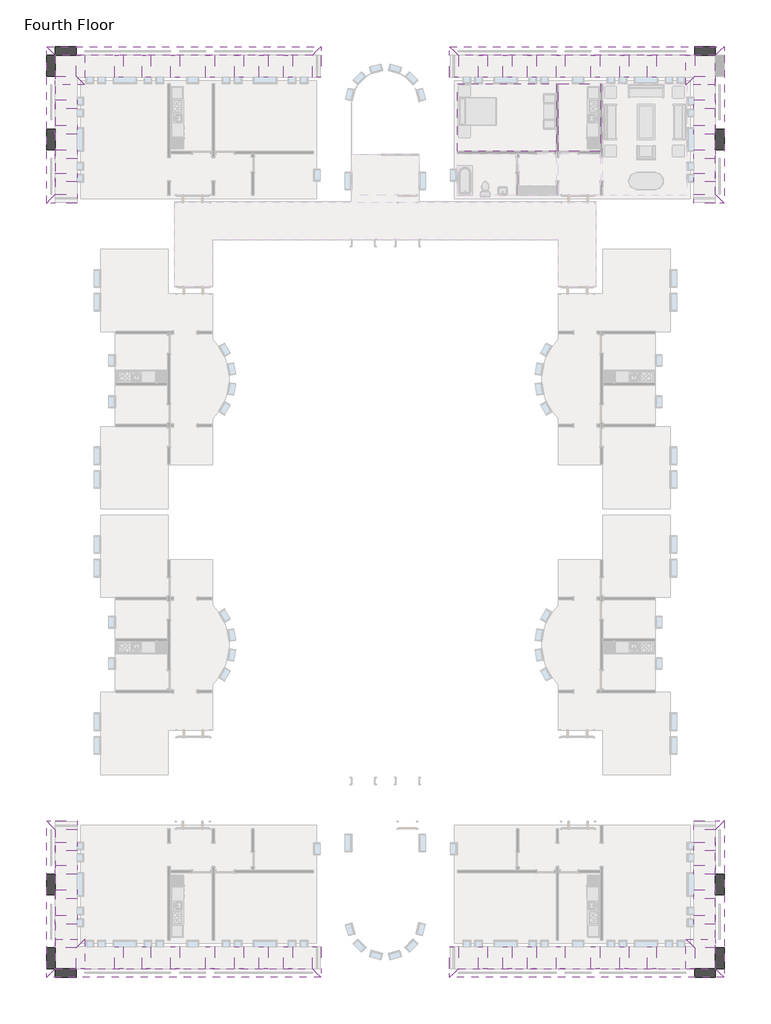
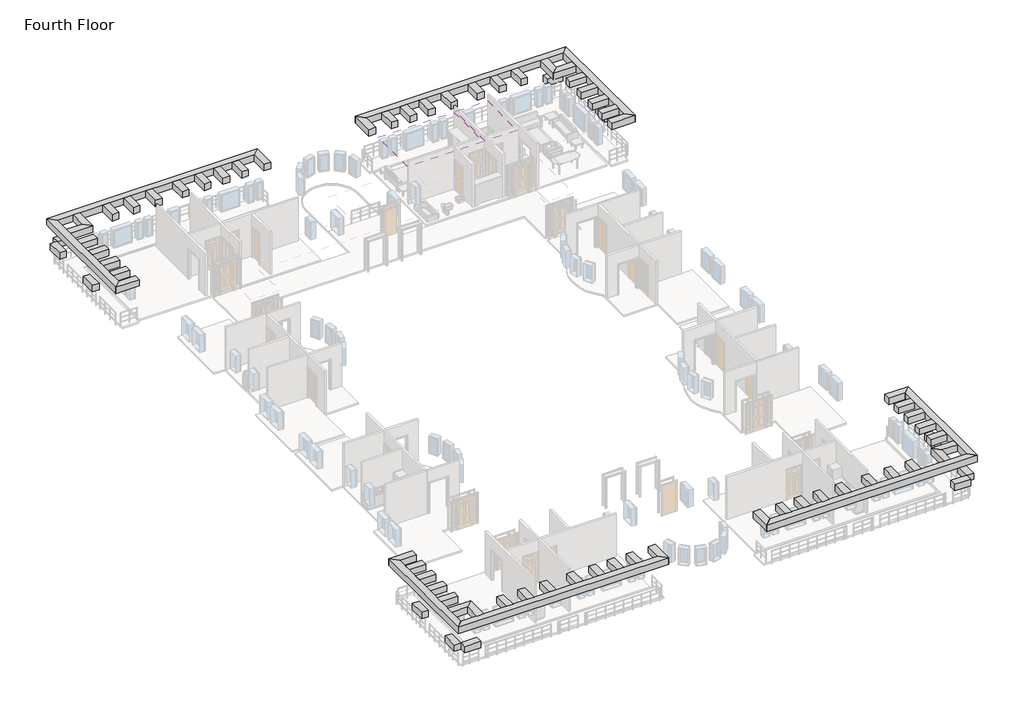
# One storey, part 4 of 5: 79 beams, 2 coverings.
"""IFC4 building model written with IfcOpenShell, lengths in millimetres."""

import ifcopenshell
import ifcopenshell.guid

model = None  # the IFC model being written
_history = None  # IfcOwnerHistory: only IFC2X3 demands one
_inside = {}  # id of a spatial element -> (the spatial element, [elements in it])
_under = {}  # id of a project, library or spatial element -> (it, [spatial elements below it])
_declared = {}  # id of a project -> (the project, [libraries it declares])
_typed = {}  # id of a type object -> (the type object, [elements of that type])
_made_of = {}  # id of a material, layer set ... -> (it, [elements and type objects made of it])


def new_model(schema):
    """Start an empty IFC model of exactly this schema.

    Asked for "IFC4X3", IfcOpenShell would pick the latest addendum, in which some entities
    have other attributes; the version numbers below select the first issue.
    IFC2X3 requires an IfcOwnerHistory on every rooted entity: one is made here for all.
    """
    global model, _history
    if schema == "IFC4X3":
        model = ifcopenshell.file(schema_version=(4, 3, 0, 0))
    else:
        model = ifcopenshell.file(schema=schema)
    _inside.clear()
    _under.clear()
    _declared.clear()
    _typed.clear()
    _made_of.clear()
    _history = None
    if model.schema == "IFC2X3":
        org = make("IfcOrganization", Name="unknown")
        user = make(
            "IfcPersonAndOrganization",
            ThePerson=make("IfcPerson", FamilyName="unknown"),
            TheOrganization=org,
        )
        app = make(
            "IfcApplication",
            ApplicationDeveloper=org,
            Version="unknown",
            ApplicationFullName="unknown",
            ApplicationIdentifier="unknown",
        )
        _history = make(
            "IfcOwnerHistory",
            OwningUser=user,
            OwningApplication=app,
            ChangeAction="ADDED",
            CreationDate=0,
        )
    return model


def make(cls, **values):
    """One entity of the class cls with the attributes given. An attribute that is None is left unset."""
    return model.create_entity(
        cls, **{name: value for name, value in values.items() if value is not None}
    )


def rooted(cls, **values):
    """An entity with a GlobalId (a new one), such as an element, a storey or a relation."""
    return make(cls, GlobalId=ifcopenshell.guid.new(), OwnerHistory=_history, **values)


def si_unit(unit_type, name, prefix=None):
    """IfcSIUnit, for example si_unit("LENGTHUNIT", "METRE", prefix="MILLI")."""
    return make("IfcSIUnit", UnitType=unit_type, Prefix=prefix, Name=name)


def assignment(units):
    """IfcUnitAssignment: the units of a project."""
    return None if units is None else make("IfcUnitAssignment", Units=units)


def point(xyz):
    """IfcCartesianPoint."""
    return None if xyz is None else make("IfcCartesianPoint", Coordinates=xyz)


def direction(xyz):
    """IfcDirection."""
    return None if xyz is None else make("IfcDirection", DirectionRatios=xyz)


def frame(location, z_axis=None, x_axis=None):
    """IfcAxis2Placement3D, a coordinate frame: its origin and axes. An axis left out is left unset."""
    return make(
        "IfcAxis2Placement3D",
        Location=point(location),
        Axis=direction(z_axis),
        RefDirection=direction(x_axis),
    )


def origin():
    """The frame at (0, 0, 0) with its axes left unset."""
    return frame((0.0, 0.0, 0.0))


def place(relative_to, where):
    """IfcLocalPlacement: puts the frame where relative to a parent placement (None: the world)."""
    return make(
        "IfcLocalPlacement", PlacementRelTo=relative_to, RelativePlacement=where
    )


def context(
    kind, dimensions, precision=None, world=None, true_north=None, identifier=None
):
    """IfcGeometricRepresentationContext, for example the 3D "Model" context."""
    return make(
        "IfcGeometricRepresentationContext",
        ContextIdentifier=identifier,
        ContextType=kind,
        CoordinateSpaceDimension=dimensions,
        Precision=precision,
        WorldCoordinateSystem=world,
        TrueNorth=true_north,
    )


def project(units=None, contexts=None):
    """IfcProject with its units and contexts."""
    return rooted(
        "IfcProject",
        Name="project",
        RepresentationContexts=contexts,
        UnitsInContext=assignment(units),
    )


def spatial(cls, under=None, at=None, **own):
    """A site, building, storey or space (cls), placed at a placement, below another one or the project."""
    s = rooted(cls, ObjectPlacement=at, **own)
    if under is not None:
        _under.setdefault(under.id(), (under, []))[1].append(s)
    return s


def polyline(points):
    """IfcPolyline through the points."""
    return make("IfcPolyline", Points=[point(p) for p in points])


def outline(outer, holes=None, kind="AREA"):
    """IfcArbitraryClosedProfileDef: a profile drawn as a closed curve; with holes, ...WithVoids."""
    if holes is None:
        return make("IfcArbitraryClosedProfileDef", ProfileType=kind, OuterCurve=outer)
    return make(
        "IfcArbitraryProfileDefWithVoids",
        ProfileType=kind,
        OuterCurve=outer,
        InnerCurves=holes,
    )


def extrude(swept, where, along, depth):
    """IfcExtrudedAreaSolid: the profile swept, set in the frame where, extruded along a direction by depth."""
    return make(
        "IfcExtrudedAreaSolid",
        SweptArea=swept,
        Position=where,
        ExtrudedDirection=direction(along),
        Depth=depth,
    )


def faces_of(points, faces, orient=None, outer=None):
    """IfcFace entities. A face is a list of loops; a loop is a list of indices into points, from 0.

    orient and outer hold one flag for each loop. By default every Orientation is true, the
    first loop of a face is its IfcFaceOuterBound and the others are IfcFaceBound.
    """
    made = []
    for i, loops in enumerate(faces):
        bounds = []
        for j, loop in enumerate(loops):
            is_outer = j == 0 if outer is None else outer[i][j]
            bounds.append(
                make(
                    "IfcFaceOuterBound" if is_outer else "IfcFaceBound",
                    Bound=make("IfcPolyLoop", Polygon=[points[k] for k in loop]),
                    Orientation=True if orient is None else orient[i][j],
                )
            )
        made.append(make("IfcFace", Bounds=bounds))
    return made


def faceted_brep(points, faces, orient=None, outer=None, voids=None):
    """IfcFacetedBrep: a solid bounded by flat faces; with voids (closed shells), ...WithVoids."""
    shared = [point(p) for p in points]
    hull = make("IfcClosedShell", CfsFaces=faces_of(shared, faces, orient, outer))
    if voids is None:
        return make("IfcFacetedBrep", Outer=hull)
    return make(
        "IfcFacetedBrepWithVoids",
        Outer=hull,
        Voids=[
            make(cls, CfsFaces=faces_of(shared, fs, o, b)) for cls, fs, o, b in voids
        ],
    )


def shape(context_of_items, identifier, shape_type, items):
    """IfcShapeRepresentation: the items that make up one representation, for example the "Body"."""
    return make(
        "IfcShapeRepresentation",
        ContextOfItems=context_of_items,
        RepresentationIdentifier=identifier,
        RepresentationType=shape_type,
        Items=items,
    )


def source(mapping_origin, context_of_items, identifier, shape_type, items):
    """IfcRepresentationMap: a shape defined once, which mapped items show again and again."""
    return make(
        "IfcRepresentationMap",
        MappingOrigin=mapping_origin,
        MappedRepresentation=shape(context_of_items, identifier, shape_type, items),
    )


def transform(
    local_origin,
    x_axis=None,
    y_axis=None,
    z_axis=None,
    scale=None,
    scale2=None,
    scale3=None,
    uniform=True,
):
    """IfcCartesianTransformationOperator3D, or its non-uniform kind. x_axis, y_axis, z_axis: its Axis1, 2, 3."""
    if uniform:
        return make(
            "IfcCartesianTransformationOperator3D",
            Axis1=direction(x_axis),
            Axis2=direction(y_axis),
            LocalOrigin=point(local_origin),
            Scale=scale,
            Axis3=direction(z_axis),
        )
    return make(
        "IfcCartesianTransformationOperator3DnonUniform",
        Axis1=direction(x_axis),
        Axis2=direction(y_axis),
        LocalOrigin=point(local_origin),
        Scale=scale,
        Axis3=direction(z_axis),
        Scale2=scale2,
        Scale3=scale3,
    )


def mapped(mapping_source, mapping_target):
    """IfcMappedItem: shows the shape of a source again, moved by a transform."""
    return make(
        "IfcMappedItem", MappingSource=mapping_source, MappingTarget=mapping_target
    )


def made_of(thing, what):
    """Note that an element or type object is made of a material, layer set ...; save() writes the relation."""
    if what is not None:
        _made_of.setdefault(what.id(), (what, []))[1].append(thing)
    return thing


def element(
    cls,
    number,
    at=None,
    inside=None,
    cuts=None,
    type_object=None,
    material=None,
    context=None,
    identifier="Body",
    shape_type=None,
    held_by="IfcProductDefinitionShape",
    body=None,
    shapes=None,
    **own,
):
    """One element of the class cls, such as IfcWall. Its Tag is "e" and its number.

    at: its placement. inside: the storey or other place that contains it. cuts: it is an
    opening in that element (IfcRelVoidsElement). A single representation is given by context,
    identifier, shape_type and body (its items); several are given by shapes. held_by: the class
    of the entity that holds the representations. save() writes the other relations.
    """
    e = rooted(cls, Tag="e%d" % number, ObjectPlacement=at, **own)
    if body is not None:
        shapes = [shape(context, identifier, shape_type, body)]
    if shapes is not None:
        e.Representation = make(held_by, Representations=shapes)
    if inside is not None:
        _inside.setdefault(inside.id(), (inside, []))[1].append(e)
    if cuts is not None:
        rooted(
            "IfcRelVoidsElement", RelatingBuildingElement=cuts, RelatedOpeningElement=e
        )
    if type_object is not None:
        _typed.setdefault(type_object.id(), (type_object, []))[1].append(e)
    return made_of(e, material)


def aggregate(whole, parts):
    """IfcRelAggregates: a whole, such as a stair, and the parts it consists of."""
    return rooted("IfcRelAggregates", RelatingObject=whole, RelatedObjects=parts)


def save(model, path):
    """Write the relations noted so far, then the file.

    IfcRelAggregates (storeys below a building ...), IfcRelContainedInSpatialStructure (elements
    in a storey), IfcRelDefinesByType, IfcRelAssociatesMaterial and IfcRelDeclares: one each for
    every whole, place, type object, material and project.
    """
    for whole, parts in _under.values():
        aggregate(whole, parts)
    for where, things in _inside.values():
        rooted(
            "IfcRelContainedInSpatialStructure",
            RelatedElements=things,
            RelatingStructure=where,
        )
    for kind, things in _typed.values():
        rooted("IfcRelDefinesByType", RelatedObjects=things, RelatingType=kind)
    for what, things in _made_of.values():
        rooted("IfcRelAssociatesMaterial", RelatedObjects=things, RelatingMaterial=what)
    for by, libraries in _declared.values():
        rooted("IfcRelDeclares", RelatingContext=by, RelatedDefinitions=libraries)
    model.write(path)


def concrete_rectangular_beam_18_x_18_d2ae2ec1(model_context):
    return source(origin(), model_context, "Body", "SweptSolid", [
        extrude(outline(polyline([(558.8, 228.6), (558.8, -228.6), (-558.8, -228.6), (-558.8, 228.6), (558.8, 228.6)])), frame((0.0, 0.0, -228.6), z_axis=(0.0, 0.0, 1.0), x_axis=(1.0, 0.0, 0.0)), (0.0, 0.0, 1.0), 457.2),
    ])


def concrete_rectangular_beam_18_x_18_4ba7165a(model_context):
    return source(origin(), model_context, "Body", "SweptSolid", [
        extrude(outline(polyline([(533.4, 228.6), (533.4, -228.6), (-533.4, -228.6), (-533.4, 228.6), (533.4, 228.6)])), frame((0.0, 0.0, -228.6), z_axis=(0.0, 0.0, 1.0), x_axis=(1.0, 0.0, 0.0)), (0.0, 0.0, 1.0), 457.2),
    ])


def concrete_rectangular_beam_18_x_18_bb97956a(model_context):
    return source(origin(), model_context, "Body", "SweptSolid", [
        extrude(outline(polyline([(558.8, -228.6), (-558.8, -228.6), (-558.8, 228.6), (558.8, 228.6), (558.8, -228.6)])), frame((0.0, 0.0, -228.6), z_axis=(0.0, 0.0, 1.0), x_axis=(1.0, 0.0, 0.0)), (0.0, 0.0, 1.0), 457.2),
    ])


def concrete_rectangular_beam_18_x_18_c7730e0d(model_context):
    return source(origin(), model_context, "Body", "SweptSolid", [
        extrude(outline(polyline([(533.4, -228.6), (-533.4, -228.6), (-533.4, 228.6), (533.4, 228.6), (533.4, -228.6)])), frame((0.0, 0.0, -228.6), z_axis=(0.0, 0.0, 1.0), x_axis=(1.0, 0.0, 0.0)), (0.0, 0.0, 1.0), 457.2),
    ])


model = new_model("IFC4")

# Units and contexts
model_context = context("Model", 3, world=origin())
ifc_project = project(units=[si_unit("LENGTHUNIT", "METRE", prefix="MILLI")], contexts=[model_context])

# Site, building, storey
site = spatial("IfcSite", under=ifc_project)
building = spatial("IfcBuilding", under=site)
storey = spatial("IfcBuildingStorey", under=building, Name="Fourth Floor", Elevation=9144.0)

# Beams
placement = place(None, origin())
element("IfcBeam", 1, ObjectType="Concrete-Rectangular Beam : 18 x 18", at=placement, inside=storey, context=model_context, shape_type="SweptSolid", body=[
    extrude(outline(polyline([(2551.1410437, 12198.8316867), (2093.9410437, 11741.6316867), (-11164.8589563, 11741.6316867), (-11622.0589563, 12198.8316867), (2551.1410437, 12198.8316867)])), frame((0.0, 0.0, 11734.8), z_axis=(0.0, 0.0, 1.0), x_axis=(1.0, 0.0, 0.0)), (0.0, 0.0, 1.0), 457.2),
])
element("IfcBeam", 2, ObjectType="Concrete-Rectangular Beam : 18 x 18", at=placement, inside=storey, context=model_context, shape_type="Brep", body=[
    faceted_brep([(2093.9410437, 4578.8316867, 12192.0), (2551.1410437, 4121.6316867, 12192.0), (2551.1410437, 12198.8316867, 12192.0), (2093.9410437, 11741.6316867, 12192.0), (2093.9410437, 4578.8316867, 11734.8), (2093.9410437, 11741.6316867, 11734.8), (2551.1410437, 4121.6316867, 11734.8), (2551.1410437, 12198.8316867, 11734.8), (2551.1410437, 11741.6316867, 11734.8)], [[[0, 1, 2, 3]], [[4, 0, 3, 5]], [[6, 4, 5, 7, 8]], [[1, 6, 8, 7, 2]], [[1, 0, 4, 6]], [[2, 7, 5, 3]]]),
])
element("IfcBeam", 3, ObjectType="Concrete-Rectangular Beam : 18 x 18", at=placement, inside=storey, context=model_context, shape_type="Brep", body=[
    faceted_brep([(-11164.8589563, 10624.0316867, 12192.0), (-11622.0589563, 10624.0316867, 12192.0), (-11622.0589563, 10624.0316867, 11734.8), (-11164.8589563, 10624.0316867, 11734.8), (-11164.8589563, 11741.6316867, 12192.0), (-11622.0589563, 12198.8316867, 12192.0), (-11622.0589563, 12198.8316867, 11734.8), (-11622.0589563, 11741.6316867, 11734.8), (-11164.8589563, 11741.6316867, 11734.8)], [[[0, 1, 2, 3]], [[1, 0, 4, 5]], [[2, 1, 5, 6, 7]], [[3, 2, 7, 6, 8]], [[0, 3, 8, 4]], [[4, 8, 6, 5]]]),
])
element("IfcBeam", 4, ObjectType="Concrete-Rectangular Beam : 18 x 18", at=placement, inside=storey, context=model_context, shape_type="SweptSolid", body=[
    extrude(outline(polyline([(1027.1410437, 10674.8316867), (569.9410437, 10217.6316867), (569.9410437, 11741.6316867), (1027.1410437, 11741.6316867), (1027.1410437, 10674.8316867)])), frame((0.0, 0.0, 11734.8), z_axis=(0.0, 0.0, 1.0), x_axis=(1.0, 0.0, 0.0)), (0.0, 0.0, 1.0), 457.2),
])
element("IfcBeam", 5, ObjectType="Concrete-Rectangular Beam : 18 x 18", at=placement, inside=storey, context=model_context, shape_type="SweptSolid", body=[
    extrude(outline(polyline([(569.9410437, 10217.6316867), (1027.1410437, 10674.8316867), (2093.9410437, 10674.8316867), (2093.9410437, 10217.6316867), (569.9410437, 10217.6316867)])), frame((0.0, 0.0, 11734.8), z_axis=(0.0, 0.0, 1.0), x_axis=(1.0, 0.0, 0.0)), (0.0, 0.0, 1.0), 457.2),
])
element("IfcBeam", 6, ObjectType="Concrete-Rectangular Beam : 18 x 18", at=placement, inside=storey, context=model_context, shape_type="Brep", body=[
    faceted_brep([(976.3410437, 4121.6316867, 12192.0), (976.3410437, 4578.8316867, 12192.0), (976.3410437, 4578.8316867, 11734.8), (976.3410437, 4121.6316867, 11734.8), (2551.1410437, 4121.6316867, 12192.0), (2093.9410437, 4578.8316867, 12192.0), (2093.9410437, 4578.8316867, 11734.8), (2551.1410437, 4121.6316867, 11734.8), (2093.9410437, 4121.6316867, 11734.8)], [[[0, 1, 2, 3]], [[1, 0, 4, 5]], [[2, 1, 5, 6]], [[3, 2, 6, 7, 8]], [[0, 3, 8, 7, 4]], [[4, 7, 6, 5]]]),
])
element("IfcBeam", 7, ObjectType="Concrete-Rectangular Beam : 18 x 18", at=placement, inside=storey, context=model_context, shape_type="Brep", body=[
    faceted_brep([(1027.1410437, 11741.6316867, 10668.0), (1027.1410437, 12198.8316867, 10668.0), (1027.1410437, 12198.8316867, 10210.8), (1027.1410437, 11741.6316867, 10210.8), (2093.9410437, 11741.6316867, 10668.0), (2093.9410437, 11741.6316867, 10210.8), (2093.9410437, 11754.3316867, 10210.8), (2093.9410437, 12198.8316867, 10210.8), (2093.9410437, 12198.8316867, 10668.0), (2093.9410437, 11754.3316867, 10668.0)], [[[0, 1, 2, 3]], [[4, 5, 6, 7, 8, 9]], [[1, 0, 4, 9, 8]], [[2, 1, 8, 7]], [[3, 2, 7, 6, 5]], [[0, 3, 5, 4]]]),
])
element("IfcBeam", 8, ObjectType="Concrete-Rectangular Beam : 18 x 18", at=placement, inside=storey, context=model_context, shape_type="SweptSolid", body=[
    extrude(outline(polyline([(-32421.4839563, 12198.8316867), (-18248.2839563, 12198.8316867), (-18705.4839563, 11741.6316867), (-31964.2839563, 11741.6316867), (-32421.4839563, 12198.8316867)])), frame((0.0, 0.0, 11734.8), z_axis=(0.0, 0.0, 1.0), x_axis=(1.0, 0.0, 0.0)), (0.0, 0.0, 1.0), 457.2),
])
element("IfcBeam", 9, ObjectType="Concrete-Rectangular Beam : 18 x 18", at=placement, inside=storey, context=model_context, shape_type="Brep", body=[
    faceted_brep([(-31964.2839563, 4578.8316867, 12192.0), (-31964.2839563, 11741.6316867, 12192.0), (-32421.4839563, 12198.8316867, 12192.0), (-32421.4839563, 4121.6316867, 12192.0), (-31964.2839563, 4578.8316867, 11734.8), (-31964.2839563, 11741.6316867, 11734.8), (-32421.4839563, 4121.6316867, 11734.8), (-32421.4839563, 11741.6316867, 11734.8), (-32421.4839563, 12198.8316867, 11734.8)], [[[0, 1, 2, 3]], [[4, 5, 1, 0]], [[6, 7, 8, 5, 4]], [[3, 2, 8, 7, 6]], [[3, 6, 4, 0]], [[2, 1, 5, 8]]]),
])
element("IfcBeam", 10, ObjectType="Concrete-Rectangular Beam : 18 x 18", at=placement, inside=storey, context=model_context, shape_type="Brep", body=[
    faceted_brep([(-18705.4839563, 10624.0316867, 12192.0), (-18705.4839563, 10624.0316867, 11734.8), (-18248.2839563, 10624.0316867, 11734.8), (-18248.2839563, 10624.0316867, 12192.0), (-18248.2839563, 12198.8316867, 12192.0), (-18705.4839563, 11741.6316867, 12192.0), (-18248.2839563, 11741.6316867, 11734.8), (-18248.2839563, 12198.8316867, 11734.8), (-18705.4839563, 11741.6316867, 11734.8)], [[[0, 1, 2, 3]], [[3, 4, 5, 0]], [[2, 6, 7, 4, 3]], [[1, 8, 7, 6, 2]], [[0, 5, 8, 1]], [[5, 4, 7, 8]]]),
])
element("IfcBeam", 11, ObjectType="Concrete-Rectangular Beam : 18 x 18", at=placement, inside=storey, context=model_context, shape_type="SweptSolid", body=[
    extrude(outline(polyline([(-30897.4839563, 10674.8316867), (-30897.4839563, 11741.6316867), (-30440.2839563, 11741.6316867), (-30440.2839563, 10217.6316867), (-30897.4839563, 10674.8316867)])), frame((0.0, 0.0, 11734.8), z_axis=(0.0, 0.0, 1.0), x_axis=(1.0, 0.0, 0.0)), (0.0, 0.0, 1.0), 457.2),
])
element("IfcBeam", 12, ObjectType="Concrete-Rectangular Beam : 18 x 18", at=placement, inside=storey, context=model_context, shape_type="SweptSolid", body=[
    extrude(outline(polyline([(-30440.2839563, 10217.6316867), (-31964.2839563, 10217.6316867), (-31964.2839563, 10674.8316867), (-30897.4839563, 10674.8316867), (-30440.2839563, 10217.6316867)])), frame((0.0, 0.0, 11734.8), z_axis=(0.0, 0.0, 1.0), x_axis=(1.0, 0.0, 0.0)), (0.0, 0.0, 1.0), 457.2),
])
element("IfcBeam", 13, ObjectType="Concrete-Rectangular Beam : 18 x 18", at=placement, inside=storey, context=model_context, shape_type="Brep", body=[
    faceted_brep([(-30846.6839563, 4121.6316867, 12192.0), (-30846.6839563, 4121.6316867, 11734.8), (-30846.6839563, 4578.8316867, 11734.8), (-30846.6839563, 4578.8316867, 12192.0), (-31964.2839563, 4578.8316867, 12192.0), (-32421.4839563, 4121.6316867, 12192.0), (-31964.2839563, 4578.8316867, 11734.8), (-31964.2839563, 4121.6316867, 11734.8), (-32421.4839563, 4121.6316867, 11734.8)], [[[0, 1, 2, 3]], [[3, 4, 5, 0]], [[2, 6, 4, 3]], [[1, 7, 8, 6, 2]], [[0, 5, 8, 7, 1]], [[5, 4, 6, 8]]]),
])
element("IfcBeam", 14, ObjectType="Concrete-Rectangular Beam : 18 x 18", at=placement, inside=storey, context=model_context, shape_type="Brep", body=[
    faceted_brep([(-30897.4839563, 11741.6316867, 10668.0), (-30897.4839563, 11741.6316867, 10210.8), (-30897.4839563, 12198.8316867, 10210.8), (-30897.4839563, 12198.8316867, 10668.0), (-31964.2839563, 11741.6316867, 10668.0), (-31964.2839563, 11754.3316867, 10668.0), (-31964.2839563, 12198.8316867, 10668.0), (-31964.2839563, 12198.8316867, 10210.8), (-31964.2839563, 11754.3316867, 10210.8), (-31964.2839563, 11741.6316867, 10210.8)], [[[0, 1, 2, 3]], [[4, 5, 6, 7, 8, 9]], [[3, 6, 5, 4, 0]], [[2, 7, 6, 3]], [[1, 9, 8, 7, 2]], [[0, 4, 9, 1]]]),
])
element("IfcBeam", 15, ObjectType="Concrete-Rectangular Beam : 18 x 18", at=placement, inside=storey, context=model_context, shape_type="Brep", body=[
    faceted_brep([(-32421.4839563, 10674.8316867, 10668.0), (-32421.4839563, 10674.8316867, 10210.8), (-31964.2839563, 10674.8316867, 10210.8), (-31964.2839563, 10674.8316867, 10668.0), (-32421.4839563, 11754.3316867, 10668.0), (-31964.2839563, 11754.3316867, 10668.0), (-31964.2839563, 11754.3316867, 10210.8), (-32421.4839563, 11754.3316867, 10210.8), (-31964.2839563, 11741.6316867, 10668.0), (-31964.2839563, 11741.6316867, 10210.8)], [[[0, 1, 2, 3]], [[4, 5, 6, 7]], [[3, 8, 5, 4, 0]], [[2, 9, 6, 5, 8, 3]], [[1, 7, 6, 9, 2]], [[0, 4, 7, 1]]]),
])
element("IfcBeam", 16, ObjectType="Concrete-Rectangular Beam : 18 x 18", at=placement, inside=storey, context=model_context, shape_type="SweptSolid", body=[
    extrude(outline(polyline([(2551.1410437, -35807.1683133), (-11622.0589563, -35807.1683133), (-11164.8589563, -35349.9683133), (2093.9410437, -35349.9683133), (2551.1410437, -35807.1683133)])), frame((0.0, 0.0, 11734.8), z_axis=(0.0, 0.0, 1.0), x_axis=(1.0, 0.0, 0.0)), (0.0, 0.0, 1.0), 457.2),
])
element("IfcBeam", 17, ObjectType="Concrete-Rectangular Beam : 18 x 18", at=placement, inside=storey, context=model_context, shape_type="Brep", body=[
    faceted_brep([(2093.9410437, -28187.1683133, 12192.0), (2093.9410437, -35349.9683133, 12192.0), (2551.1410437, -35807.1683133, 12192.0), (2551.1410437, -27729.9683133, 12192.0), (2093.9410437, -28187.1683133, 11734.8), (2093.9410437, -35349.9683133, 11734.8), (2551.1410437, -27729.9683133, 11734.8), (2551.1410437, -35349.9683133, 11734.8), (2551.1410437, -35807.1683133, 11734.8)], [[[0, 1, 2, 3]], [[4, 5, 1, 0]], [[6, 7, 8, 5, 4]], [[3, 2, 8, 7, 6]], [[3, 6, 4, 0]], [[2, 1, 5, 8]]]),
])
element("IfcBeam", 18, ObjectType="Concrete-Rectangular Beam : 18 x 18", at=placement, inside=storey, context=model_context, shape_type="Brep", body=[
    faceted_brep([(-11164.8589563, -34232.3683133, 12192.0), (-11164.8589563, -34232.3683133, 11734.8), (-11622.0589563, -34232.3683133, 11734.8), (-11622.0589563, -34232.3683133, 12192.0), (-11622.0589563, -35807.1683133, 12192.0), (-11164.8589563, -35349.9683133, 12192.0), (-11622.0589563, -35349.9683133, 11734.8), (-11622.0589563, -35807.1683133, 11734.8), (-11164.8589563, -35349.9683133, 11734.8)], [[[0, 1, 2, 3]], [[3, 4, 5, 0]], [[2, 6, 7, 4, 3]], [[1, 8, 7, 6, 2]], [[0, 5, 8, 1]], [[5, 4, 7, 8]]]),
])
element("IfcBeam", 19, ObjectType="Concrete-Rectangular Beam : 18 x 18", at=placement, inside=storey, context=model_context, shape_type="SweptSolid", body=[
    extrude(outline(polyline([(1027.1410437, -34283.1683133), (1027.1410437, -35349.9683133), (569.9410437, -35349.9683133), (569.9410437, -33825.9683133), (1027.1410437, -34283.1683133)])), frame((0.0, 0.0, 11734.8), z_axis=(0.0, 0.0, 1.0), x_axis=(1.0, 0.0, 0.0)), (0.0, 0.0, 1.0), 457.2),
])
element("IfcBeam", 20, ObjectType="Concrete-Rectangular Beam : 18 x 18", at=placement, inside=storey, context=model_context, shape_type="SweptSolid", body=[
    extrude(outline(polyline([(569.9410437, -33825.9683133), (2093.9410437, -33825.9683133), (2093.9410437, -34283.1683133), (1027.1410437, -34283.1683133), (569.9410437, -33825.9683133)])), frame((0.0, 0.0, 11734.8), z_axis=(0.0, 0.0, 1.0), x_axis=(1.0, 0.0, 0.0)), (0.0, 0.0, 1.0), 457.2),
])
element("IfcBeam", 21, ObjectType="Concrete-Rectangular Beam : 18 x 18", at=placement, inside=storey, context=model_context, shape_type="Brep", body=[
    faceted_brep([(976.3410437, -27729.9683133, 12192.0), (976.3410437, -27729.9683133, 11734.8), (976.3410437, -28187.1683133, 11734.8), (976.3410437, -28187.1683133, 12192.0), (2093.9410437, -28187.1683133, 12192.0), (2551.1410437, -27729.9683133, 12192.0), (2093.9410437, -28187.1683133, 11734.8), (2093.9410437, -27729.9683133, 11734.8), (2551.1410437, -27729.9683133, 11734.8)], [[[0, 1, 2, 3]], [[3, 4, 5, 0]], [[2, 6, 4, 3]], [[1, 7, 8, 6, 2]], [[0, 5, 8, 7, 1]], [[5, 4, 6, 8]]]),
])
element("IfcBeam", 22, ObjectType="Concrete-Rectangular Beam : 18 x 18", at=placement, inside=storey, context=model_context, shape_type="Brep", body=[
    faceted_brep([(1027.1410437, -35349.9683133, 10668.0), (1027.1410437, -35349.9683133, 10210.8), (1027.1410437, -35807.1683133, 10210.8), (1027.1410437, -35807.1683133, 10668.0), (2093.9410437, -35349.9683133, 10668.0), (2093.9410437, -35362.6683133, 10668.0), (2093.9410437, -35807.1683133, 10668.0), (2093.9410437, -35807.1683133, 10210.8), (2093.9410437, -35362.6683133, 10210.8), (2093.9410437, -35349.9683133, 10210.8)], [[[0, 1, 2, 3]], [[4, 5, 6, 7, 8, 9]], [[3, 6, 5, 4, 0]], [[2, 7, 6, 3]], [[1, 9, 8, 7, 2]], [[0, 4, 9, 1]]]),
])
element("IfcBeam", 23, ObjectType="Concrete-Rectangular Beam : 18 x 18", at=placement, inside=storey, context=model_context, shape_type="Brep", body=[
    faceted_brep([(2551.1410437, -34283.1683133, 10668.0), (2551.1410437, -34283.1683133, 10210.8), (2093.9410437, -34283.1683133, 10210.8), (2093.9410437, -34283.1683133, 10668.0), (2551.1410437, -35362.6683133, 10668.0), (2093.9410437, -35362.6683133, 10668.0), (2093.9410437, -35362.6683133, 10210.8), (2551.1410437, -35362.6683133, 10210.8), (2093.9410437, -35349.9683133, 10668.0), (2093.9410437, -35349.9683133, 10210.8)], [[[0, 1, 2, 3]], [[4, 5, 6, 7]], [[3, 8, 5, 4, 0]], [[2, 9, 6, 5, 8, 3]], [[1, 7, 6, 9, 2]], [[0, 4, 7, 1]]]),
])
element("IfcBeam", 24, ObjectType="Concrete-Rectangular Beam : 18 x 18", at=placement, inside=storey, context=model_context, shape_type="SweptSolid", body=[
    extrude(outline(polyline([(-32421.4839563, -35807.1683133), (-31964.2839563, -35349.9683133), (-18705.4839563, -35349.9683133), (-18248.2839563, -35807.1683133), (-32421.4839563, -35807.1683133)])), frame((0.0, 0.0, 11734.8), z_axis=(0.0, 0.0, 1.0), x_axis=(1.0, 0.0, 0.0)), (0.0, 0.0, 1.0), 457.2),
])
element("IfcBeam", 25, ObjectType="Concrete-Rectangular Beam : 18 x 18", at=placement, inside=storey, context=model_context, shape_type="Brep", body=[
    faceted_brep([(-31964.2839563, -28187.1683133, 12192.0), (-32421.4839563, -27729.9683133, 12192.0), (-32421.4839563, -35807.1683133, 12192.0), (-31964.2839563, -35349.9683133, 12192.0), (-31964.2839563, -28187.1683133, 11734.8), (-31964.2839563, -35349.9683133, 11734.8), (-32421.4839563, -27729.9683133, 11734.8), (-32421.4839563, -35807.1683133, 11734.8), (-32421.4839563, -35349.9683133, 11734.8)], [[[0, 1, 2, 3]], [[4, 0, 3, 5]], [[6, 4, 5, 7, 8]], [[1, 6, 8, 7, 2]], [[1, 0, 4, 6]], [[2, 7, 5, 3]]]),
])
element("IfcBeam", 26, ObjectType="Concrete-Rectangular Beam : 18 x 18", at=placement, inside=storey, context=model_context, shape_type="Brep", body=[
    faceted_brep([(-18705.4839563, -34232.3683133, 12192.0), (-18248.2839563, -34232.3683133, 12192.0), (-18248.2839563, -34232.3683133, 11734.8), (-18705.4839563, -34232.3683133, 11734.8), (-18705.4839563, -35349.9683133, 12192.0), (-18248.2839563, -35807.1683133, 12192.0), (-18248.2839563, -35807.1683133, 11734.8), (-18248.2839563, -35349.9683133, 11734.8), (-18705.4839563, -35349.9683133, 11734.8)], [[[0, 1, 2, 3]], [[1, 0, 4, 5]], [[2, 1, 5, 6, 7]], [[3, 2, 7, 6, 8]], [[0, 3, 8, 4]], [[4, 8, 6, 5]]]),
])
element("IfcBeam", 27, ObjectType="Concrete-Rectangular Beam : 18 x 18", at=placement, inside=storey, context=model_context, shape_type="SweptSolid", body=[
    extrude(outline(polyline([(-30897.4839563, -34283.1683133), (-30440.2839563, -33825.9683133), (-30440.2839563, -35349.9683133), (-30897.4839563, -35349.9683133), (-30897.4839563, -34283.1683133)])), frame((0.0, 0.0, 11734.8), z_axis=(0.0, 0.0, 1.0), x_axis=(1.0, 0.0, 0.0)), (0.0, 0.0, 1.0), 457.2),
])
element("IfcBeam", 28, ObjectType="Concrete-Rectangular Beam : 18 x 18", at=placement, inside=storey, context=model_context, shape_type="SweptSolid", body=[
    extrude(outline(polyline([(-30440.2839563, -33825.9683133), (-30897.4839563, -34283.1683133), (-31964.2839563, -34283.1683133), (-31964.2839563, -33825.9683133), (-30440.2839563, -33825.9683133)])), frame((0.0, 0.0, 11734.8), z_axis=(0.0, 0.0, 1.0), x_axis=(1.0, 0.0, 0.0)), (0.0, 0.0, 1.0), 457.2),
])
element("IfcBeam", 29, ObjectType="Concrete-Rectangular Beam : 18 x 18", at=placement, inside=storey, context=model_context, shape_type="Brep", body=[
    faceted_brep([(-30846.6839563, -27729.9683133, 12192.0), (-30846.6839563, -28187.1683133, 12192.0), (-30846.6839563, -28187.1683133, 11734.8), (-30846.6839563, -27729.9683133, 11734.8), (-32421.4839563, -27729.9683133, 12192.0), (-31964.2839563, -28187.1683133, 12192.0), (-31964.2839563, -28187.1683133, 11734.8), (-32421.4839563, -27729.9683133, 11734.8), (-31964.2839563, -27729.9683133, 11734.8)], [[[0, 1, 2, 3]], [[1, 0, 4, 5]], [[2, 1, 5, 6]], [[3, 2, 6, 7, 8]], [[0, 3, 8, 7, 4]], [[4, 7, 6, 5]]]),
])
element("IfcBeam", 30, ObjectType="Concrete-Rectangular Beam : 18 x 18", at=placement, inside=storey, context=model_context, shape_type="Brep", body=[
    faceted_brep([(-30897.4839563, -35349.9683133, 10668.0), (-30897.4839563, -35807.1683133, 10668.0), (-30897.4839563, -35807.1683133, 10210.8), (-30897.4839563, -35349.9683133, 10210.8), (-31964.2839563, -35349.9683133, 10668.0), (-31964.2839563, -35349.9683133, 10210.8), (-31964.2839563, -35362.6683133, 10210.8), (-31964.2839563, -35807.1683133, 10210.8), (-31964.2839563, -35807.1683133, 10668.0), (-31964.2839563, -35362.6683133, 10668.0)], [[[0, 1, 2, 3]], [[4, 5, 6, 7, 8, 9]], [[1, 0, 4, 9, 8]], [[2, 1, 8, 7]], [[3, 2, 7, 6, 5]], [[0, 3, 5, 4]]]),
])
element("IfcBeam", 31, ObjectType="Concrete-Rectangular Beam : 18 x 18", at=placement, inside=storey, context=model_context, shape_type="Brep", body=[
    faceted_brep([(-32421.4839563, -34283.1683133, 10668.0), (-31964.2839563, -34283.1683133, 10668.0), (-31964.2839563, -34283.1683133, 10210.8), (-32421.4839563, -34283.1683133, 10210.8), (-32421.4839563, -35362.6683133, 10668.0), (-32421.4839563, -35362.6683133, 10210.8), (-31964.2839563, -35362.6683133, 10210.8), (-31964.2839563, -35362.6683133, 10668.0), (-31964.2839563, -35349.9683133, 10668.0), (-31964.2839563, -35349.9683133, 10210.8)], [[[0, 1, 2, 3]], [[4, 5, 6, 7]], [[1, 0, 4, 7, 8]], [[2, 1, 8, 7, 6, 9]], [[3, 2, 9, 6, 5]], [[0, 3, 5, 4]]]),
])
concrete_rectangular_beam_18_x_18_shape = concrete_rectangular_beam_18_x_18_d2ae2ec1(model_context)
element("IfcBeam", 32, ObjectType="Concrete-Rectangular Beam : 18 x 18", at=placement, inside=storey, context=model_context, shape_type="MappedRepresentation", body=[
    mapped(concrete_rectangular_beam_18_x_18_shape, transform((-5894.3589563, 11182.8316867, 11963.4), x_axis=(0.0, -1.0, 0.0), y_axis=(1.0, 0.0, 0.0), z_axis=(0.0, 0.0, 1.0))),
])
element("IfcBeam", 33, ObjectType="Concrete-Rectangular Beam : 18 x 18", at=placement, inside=storey, context=model_context, shape_type="MappedRepresentation", body=[
    mapped(concrete_rectangular_beam_18_x_18_shape, transform((-4090.9589563, 11182.8316867, 11963.4), x_axis=(0.0, -1.0, 0.0), y_axis=(1.0, 0.0, 0.0), z_axis=(0.0, 0.0, 1.0))),
])
element("IfcBeam", 34, ObjectType="Concrete-Rectangular Beam : 18 x 18", at=placement, inside=storey, context=model_context, shape_type="MappedRepresentation", body=[
    mapped(concrete_rectangular_beam_18_x_18_shape, transform((1535.1410437, 7906.2316867, 11963.4), x_axis=(-1.0, 0.0, 0.0), y_axis=(0.0, -1.0, 0.0), z_axis=(0.0, 0.0, 1.0))),
])
element("IfcBeam", 35, ObjectType="Concrete-Rectangular Beam : 18 x 18", at=placement, inside=storey, context=model_context, shape_type="MappedRepresentation", body=[
    mapped(concrete_rectangular_beam_18_x_18_shape, transform((1535.1410437, 6636.2316867, 11963.4), x_axis=(-1.0, 0.0, 0.0), y_axis=(0.0, -1.0, 0.0), z_axis=(0.0, 0.0, 1.0))),
])
element("IfcBeam", 36, ObjectType="Concrete-Rectangular Beam : 18 x 18", at=placement, inside=storey, context=model_context, shape_type="MappedRepresentation", body=[
    mapped(concrete_rectangular_beam_18_x_18_shape, transform((-8643.9089563, 11182.8316867, 11963.4), x_axis=(0.0, -1.0, 0.0), y_axis=(1.0, 0.0, 0.0), z_axis=(0.0, 0.0, 1.0))),
])
element("IfcBeam", 37, ObjectType="Concrete-Rectangular Beam : 18 x 18", at=placement, inside=storey, context=model_context, shape_type="MappedRepresentation", body=[
    mapped(concrete_rectangular_beam_18_x_18_shape, transform((-9904.3839563, 11182.8316867, 11963.4), x_axis=(0.0, -1.0, 0.0), y_axis=(1.0, 0.0, 0.0), z_axis=(0.0, 0.0, 1.0))),
])
element("IfcBeam", 38, ObjectType="Concrete-Rectangular Beam : 18 x 18", at=placement, inside=storey, context=model_context, shape_type="MappedRepresentation", body=[
    mapped(concrete_rectangular_beam_18_x_18_shape, transform((-7383.4339563, 11182.8316867, 11963.4), x_axis=(0.0, -1.0, 0.0), y_axis=(1.0, 0.0, 0.0), z_axis=(0.0, 0.0, 1.0))),
])
element("IfcBeam", 39, ObjectType="Concrete-Rectangular Beam : 18 x 18", at=placement, inside=storey, context=model_context, shape_type="MappedRepresentation", body=[
    mapped(concrete_rectangular_beam_18_x_18_shape, transform((-1182.6589563, 11182.8316867, 11963.4), x_axis=(0.0, -1.0, 0.0), y_axis=(1.0, 0.0, 0.0), z_axis=(0.0, 0.0, 1.0))),
])
element("IfcBeam", 40, ObjectType="Concrete-Rectangular Beam : 18 x 18", at=placement, inside=storey, context=model_context, shape_type="MappedRepresentation", body=[
    mapped(concrete_rectangular_beam_18_x_18_shape, transform((-2601.8839563, 11182.8316867, 11963.4), x_axis=(0.0, -1.0, 0.0), y_axis=(1.0, 0.0, 0.0), z_axis=(0.0, 0.0, 1.0))),
])
element("IfcBeam", 41, ObjectType="Concrete-Rectangular Beam : 18 x 18", at=placement, inside=storey, context=model_context, shape_type="MappedRepresentation", body=[
    mapped(concrete_rectangular_beam_18_x_18_shape, transform((1535.1410437, 9227.0316867, 11963.4), x_axis=(-1.0, 0.0, 0.0), y_axis=(0.0, -1.0, 0.0), z_axis=(0.0, 0.0, 1.0))),
])
element("IfcBeam", 42, ObjectType="Concrete-Rectangular Beam : 18 x 18", at=placement, inside=storey, context=model_context, shape_type="MappedRepresentation", body=[
    mapped(concrete_rectangular_beam_18_x_18_shape, transform((1535.1410437, 5442.4316867, 11963.4), x_axis=(-1.0, 0.0, 0.0), y_axis=(0.0, -1.0, 0.0), z_axis=(0.0, 0.0, 1.0))),
])
element("IfcBeam", 43, ObjectType="Concrete-Rectangular Beam : 18 x 18", at=placement, inside=storey, context=model_context, shape_type="MappedRepresentation", body=[
    mapped(concrete_rectangular_beam_18_x_18_shape, transform((-23975.9839563, -34791.1683133, 11963.4), x_axis=(0.0, 1.0, 0.0), y_axis=(-1.0, 0.0, 0.0), z_axis=(0.0, 0.0, 1.0))),
])
element("IfcBeam", 44, ObjectType="Concrete-Rectangular Beam : 18 x 18", at=placement, inside=storey, context=model_context, shape_type="MappedRepresentation", body=[
    mapped(concrete_rectangular_beam_18_x_18_shape, transform((-25779.3839563, -34791.1683133, 11963.4), x_axis=(0.0, 1.0, 0.0), y_axis=(-1.0, 0.0, 0.0), z_axis=(0.0, 0.0, 1.0))),
])
element("IfcBeam", 45, ObjectType="Concrete-Rectangular Beam : 18 x 18", at=placement, inside=storey, context=model_context, shape_type="MappedRepresentation", body=[
    mapped(concrete_rectangular_beam_18_x_18_shape, transform((-31405.4839563, -31514.5683133, 11963.4), x_axis=(1.0, 0.0, 0.0), y_axis=(0.0, 1.0, 0.0), z_axis=(0.0, 0.0, 1.0))),
])
element("IfcBeam", 46, ObjectType="Concrete-Rectangular Beam : 18 x 18", at=placement, inside=storey, context=model_context, shape_type="MappedRepresentation", body=[
    mapped(concrete_rectangular_beam_18_x_18_shape, transform((-31405.4839563, -30244.5683133, 11963.4), x_axis=(1.0, 0.0, 0.0), y_axis=(0.0, 1.0, 0.0), z_axis=(0.0, 0.0, 1.0))),
])
element("IfcBeam", 47, ObjectType="Concrete-Rectangular Beam : 18 x 18", at=placement, inside=storey, context=model_context, shape_type="MappedRepresentation", body=[
    mapped(concrete_rectangular_beam_18_x_18_shape, transform((-21226.4339563, -34791.1683133, 11963.4), x_axis=(0.0, 1.0, 0.0), y_axis=(-1.0, 0.0, 0.0), z_axis=(0.0, 0.0, 1.0))),
])
element("IfcBeam", 48, ObjectType="Concrete-Rectangular Beam : 18 x 18", at=placement, inside=storey, context=model_context, shape_type="MappedRepresentation", body=[
    mapped(concrete_rectangular_beam_18_x_18_shape, transform((-19965.9589563, -34791.1683133, 11963.4), x_axis=(0.0, 1.0, 0.0), y_axis=(-1.0, 0.0, 0.0), z_axis=(0.0, 0.0, 1.0))),
])
element("IfcBeam", 49, ObjectType="Concrete-Rectangular Beam : 18 x 18", at=placement, inside=storey, context=model_context, shape_type="MappedRepresentation", body=[
    mapped(concrete_rectangular_beam_18_x_18_shape, transform((-22486.9089563, -34791.1683133, 11963.4), x_axis=(0.0, 1.0, 0.0), y_axis=(-1.0, 0.0, 0.0), z_axis=(0.0, 0.0, 1.0))),
])
element("IfcBeam", 50, ObjectType="Concrete-Rectangular Beam : 18 x 18", at=placement, inside=storey, context=model_context, shape_type="MappedRepresentation", body=[
    mapped(concrete_rectangular_beam_18_x_18_shape, transform((-28687.6839563, -34791.1683133, 11963.4), x_axis=(0.0, 1.0, 0.0), y_axis=(-1.0, 0.0, 0.0), z_axis=(0.0, 0.0, 1.0))),
])
element("IfcBeam", 51, ObjectType="Concrete-Rectangular Beam : 18 x 18", at=placement, inside=storey, context=model_context, shape_type="MappedRepresentation", body=[
    mapped(concrete_rectangular_beam_18_x_18_shape, transform((-27268.4589563, -34791.1683133, 11963.4), x_axis=(0.0, 1.0, 0.0), y_axis=(-1.0, 0.0, 0.0), z_axis=(0.0, 0.0, 1.0))),
])
element("IfcBeam", 52, ObjectType="Concrete-Rectangular Beam : 18 x 18", at=placement, inside=storey, context=model_context, shape_type="MappedRepresentation", body=[
    mapped(concrete_rectangular_beam_18_x_18_shape, transform((-31405.4839563, -32835.3683133, 11963.4), x_axis=(1.0, 0.0, 0.0), y_axis=(0.0, 1.0, 0.0), z_axis=(0.0, 0.0, 1.0))),
])
element("IfcBeam", 53, ObjectType="Concrete-Rectangular Beam : 18 x 18", at=placement, inside=storey, context=model_context, shape_type="MappedRepresentation", body=[
    mapped(concrete_rectangular_beam_18_x_18_shape, transform((-31405.4839563, -29050.7683133, 11963.4), x_axis=(1.0, 0.0, 0.0), y_axis=(0.0, 1.0, 0.0), z_axis=(0.0, 0.0, 1.0))),
])
concrete_rectangular_beam_18_x_18_2_shape = concrete_rectangular_beam_18_x_18_4ba7165a(model_context)
element("IfcBeam", 54, ObjectType="Concrete-Rectangular Beam : 18 x 18", at=placement, inside=storey, context=model_context, shape_type="MappedRepresentation", body=[
    mapped(concrete_rectangular_beam_18_x_18_2_shape, transform((2322.5410437, 7398.2316867, 10439.4), x_axis=(0.0, -1.0, 0.0), y_axis=(1.0, 0.0, 0.0), z_axis=(0.0, 0.0, 1.0))),
])
element("IfcBeam", 55, ObjectType="Concrete-Rectangular Beam : 18 x 18", at=placement, inside=storey, context=model_context, shape_type="MappedRepresentation", body=[
    mapped(concrete_rectangular_beam_18_x_18_2_shape, transform((-32192.8839563, -31006.5683133, 10439.4), x_axis=(0.0, 1.0, 0.0), y_axis=(-1.0, 0.0, 0.0), z_axis=(0.0, 0.0, 1.0))),
])
concrete_rectangular_beam_18_x_18_3_shape = concrete_rectangular_beam_18_x_18_bb97956a(model_context)
element("IfcBeam", 56, ObjectType="Concrete-Rectangular Beam : 18 x 18", at=placement, inside=storey, context=model_context, shape_type="MappedRepresentation", body=[
    mapped(concrete_rectangular_beam_18_x_18_3_shape, transform((-23975.9839563, 11182.8316867, 11963.4), x_axis=(0.0, -1.0, 0.0), y_axis=(1.0, 0.0, 0.0), z_axis=(0.0, 0.0, 1.0))),
])
element("IfcBeam", 57, ObjectType="Concrete-Rectangular Beam : 18 x 18", at=placement, inside=storey, context=model_context, shape_type="MappedRepresentation", body=[
    mapped(concrete_rectangular_beam_18_x_18_3_shape, transform((-25779.3839563, 11182.8316867, 11963.4), x_axis=(0.0, -1.0, 0.0), y_axis=(1.0, 0.0, 0.0), z_axis=(0.0, 0.0, 1.0))),
])
element("IfcBeam", 58, ObjectType="Concrete-Rectangular Beam : 18 x 18", at=placement, inside=storey, context=model_context, shape_type="MappedRepresentation", body=[
    mapped(concrete_rectangular_beam_18_x_18_3_shape, transform((-31405.4839563, 7906.2316867, 11963.4), x_axis=(1.0, 0.0, 0.0), y_axis=(0.0, 1.0, 0.0), z_axis=(0.0, 0.0, 1.0))),
])
element("IfcBeam", 59, ObjectType="Concrete-Rectangular Beam : 18 x 18", at=placement, inside=storey, context=model_context, shape_type="MappedRepresentation", body=[
    mapped(concrete_rectangular_beam_18_x_18_3_shape, transform((-31405.4839563, 6636.2316867, 11963.4), x_axis=(1.0, 0.0, 0.0), y_axis=(0.0, 1.0, 0.0), z_axis=(0.0, 0.0, 1.0))),
])
element("IfcBeam", 60, ObjectType="Concrete-Rectangular Beam : 18 x 18", at=placement, inside=storey, context=model_context, shape_type="MappedRepresentation", body=[
    mapped(concrete_rectangular_beam_18_x_18_3_shape, transform((-21226.4339563, 11182.8316867, 11963.4), x_axis=(0.0, -1.0, 0.0), y_axis=(1.0, 0.0, 0.0), z_axis=(0.0, 0.0, 1.0))),
])
element("IfcBeam", 61, ObjectType="Concrete-Rectangular Beam : 18 x 18", at=placement, inside=storey, context=model_context, shape_type="MappedRepresentation", body=[
    mapped(concrete_rectangular_beam_18_x_18_3_shape, transform((-19965.9589563, 11182.8316867, 11963.4), x_axis=(0.0, -1.0, 0.0), y_axis=(1.0, 0.0, 0.0), z_axis=(0.0, 0.0, 1.0))),
])
element("IfcBeam", 62, ObjectType="Concrete-Rectangular Beam : 18 x 18", at=placement, inside=storey, context=model_context, shape_type="MappedRepresentation", body=[
    mapped(concrete_rectangular_beam_18_x_18_3_shape, transform((-22486.9089563, 11182.8316867, 11963.4), x_axis=(0.0, -1.0, 0.0), y_axis=(1.0, 0.0, 0.0), z_axis=(0.0, 0.0, 1.0))),
])
element("IfcBeam", 63, ObjectType="Concrete-Rectangular Beam : 18 x 18", at=placement, inside=storey, context=model_context, shape_type="MappedRepresentation", body=[
    mapped(concrete_rectangular_beam_18_x_18_3_shape, transform((-28687.6839563, 11182.8316867, 11963.4), x_axis=(0.0, -1.0, 0.0), y_axis=(1.0, 0.0, 0.0), z_axis=(0.0, 0.0, 1.0))),
])
element("IfcBeam", 64, ObjectType="Concrete-Rectangular Beam : 18 x 18", at=placement, inside=storey, context=model_context, shape_type="MappedRepresentation", body=[
    mapped(concrete_rectangular_beam_18_x_18_3_shape, transform((-27268.4589563, 11182.8316867, 11963.4), x_axis=(0.0, -1.0, 0.0), y_axis=(1.0, 0.0, 0.0), z_axis=(0.0, 0.0, 1.0))),
])
element("IfcBeam", 65, ObjectType="Concrete-Rectangular Beam : 18 x 18", at=placement, inside=storey, context=model_context, shape_type="MappedRepresentation", body=[
    mapped(concrete_rectangular_beam_18_x_18_3_shape, transform((-31405.4839563, 9227.0316867, 11963.4), x_axis=(1.0, 0.0, 0.0), y_axis=(0.0, 1.0, 0.0), z_axis=(0.0, 0.0, 1.0))),
])
element("IfcBeam", 66, ObjectType="Concrete-Rectangular Beam : 18 x 18", at=placement, inside=storey, context=model_context, shape_type="MappedRepresentation", body=[
    mapped(concrete_rectangular_beam_18_x_18_3_shape, transform((-31405.4839563, 5442.4316867, 11963.4), x_axis=(1.0, 0.0, 0.0), y_axis=(0.0, 1.0, 0.0), z_axis=(0.0, 0.0, 1.0))),
])
element("IfcBeam", 67, ObjectType="Concrete-Rectangular Beam : 18 x 18", at=placement, inside=storey, context=model_context, shape_type="MappedRepresentation", body=[
    mapped(concrete_rectangular_beam_18_x_18_3_shape, transform((-5894.3589563, -34791.1683133, 11963.4), x_axis=(0.0, 1.0, 0.0), y_axis=(-1.0, 0.0, 0.0), z_axis=(0.0, 0.0, 1.0))),
])
element("IfcBeam", 68, ObjectType="Concrete-Rectangular Beam : 18 x 18", at=placement, inside=storey, context=model_context, shape_type="MappedRepresentation", body=[
    mapped(concrete_rectangular_beam_18_x_18_3_shape, transform((-4090.9589563, -34791.1683133, 11963.4), x_axis=(0.0, 1.0, 0.0), y_axis=(-1.0, 0.0, 0.0), z_axis=(0.0, 0.0, 1.0))),
])
element("IfcBeam", 69, ObjectType="Concrete-Rectangular Beam : 18 x 18", at=placement, inside=storey, context=model_context, shape_type="MappedRepresentation", body=[
    mapped(concrete_rectangular_beam_18_x_18_3_shape, transform((1535.1410437, -31514.5683133, 11963.4), x_axis=(-1.0, 0.0, 0.0), y_axis=(0.0, -1.0, 0.0), z_axis=(0.0, 0.0, 1.0))),
])
element("IfcBeam", 70, ObjectType="Concrete-Rectangular Beam : 18 x 18", at=placement, inside=storey, context=model_context, shape_type="MappedRepresentation", body=[
    mapped(concrete_rectangular_beam_18_x_18_3_shape, transform((1535.1410437, -30244.5683133, 11963.4), x_axis=(-1.0, 0.0, 0.0), y_axis=(0.0, -1.0, 0.0), z_axis=(0.0, 0.0, 1.0))),
])
element("IfcBeam", 71, ObjectType="Concrete-Rectangular Beam : 18 x 18", at=placement, inside=storey, context=model_context, shape_type="MappedRepresentation", body=[
    mapped(concrete_rectangular_beam_18_x_18_3_shape, transform((-8643.9089563, -34791.1683133, 11963.4), x_axis=(0.0, 1.0, 0.0), y_axis=(-1.0, 0.0, 0.0), z_axis=(0.0, 0.0, 1.0))),
])
element("IfcBeam", 72, ObjectType="Concrete-Rectangular Beam : 18 x 18", at=placement, inside=storey, context=model_context, shape_type="MappedRepresentation", body=[
    mapped(concrete_rectangular_beam_18_x_18_3_shape, transform((-9904.3839563, -34791.1683133, 11963.4), x_axis=(0.0, 1.0, 0.0), y_axis=(-1.0, 0.0, 0.0), z_axis=(0.0, 0.0, 1.0))),
])
element("IfcBeam", 73, ObjectType="Concrete-Rectangular Beam : 18 x 18", at=placement, inside=storey, context=model_context, shape_type="MappedRepresentation", body=[
    mapped(concrete_rectangular_beam_18_x_18_3_shape, transform((-7383.4339563, -34791.1683133, 11963.4), x_axis=(0.0, 1.0, 0.0), y_axis=(-1.0, 0.0, 0.0), z_axis=(0.0, 0.0, 1.0))),
])
element("IfcBeam", 74, ObjectType="Concrete-Rectangular Beam : 18 x 18", at=placement, inside=storey, context=model_context, shape_type="MappedRepresentation", body=[
    mapped(concrete_rectangular_beam_18_x_18_3_shape, transform((-1182.6589563, -34791.1683133, 11963.4), x_axis=(0.0, 1.0, 0.0), y_axis=(-1.0, 0.0, 0.0), z_axis=(0.0, 0.0, 1.0))),
])
element("IfcBeam", 75, ObjectType="Concrete-Rectangular Beam : 18 x 18", at=placement, inside=storey, context=model_context, shape_type="MappedRepresentation", body=[
    mapped(concrete_rectangular_beam_18_x_18_3_shape, transform((-2601.8839563, -34791.1683133, 11963.4), x_axis=(0.0, 1.0, 0.0), y_axis=(-1.0, 0.0, 0.0), z_axis=(0.0, 0.0, 1.0))),
])
element("IfcBeam", 76, ObjectType="Concrete-Rectangular Beam : 18 x 18", at=placement, inside=storey, context=model_context, shape_type="MappedRepresentation", body=[
    mapped(concrete_rectangular_beam_18_x_18_3_shape, transform((1535.1410437, -32835.3683133, 11963.4), x_axis=(-1.0, 0.0, 0.0), y_axis=(0.0, -1.0, 0.0), z_axis=(0.0, 0.0, 1.0))),
])
element("IfcBeam", 77, ObjectType="Concrete-Rectangular Beam : 18 x 18", at=placement, inside=storey, context=model_context, shape_type="MappedRepresentation", body=[
    mapped(concrete_rectangular_beam_18_x_18_3_shape, transform((1535.1410437, -29050.7683133, 11963.4), x_axis=(-1.0, 0.0, 0.0), y_axis=(0.0, -1.0, 0.0), z_axis=(0.0, 0.0, 1.0))),
])
concrete_rectangular_beam_18_x_18_4_shape = concrete_rectangular_beam_18_x_18_c7730e0d(model_context)
element("IfcBeam", 78, ObjectType="Concrete-Rectangular Beam : 18 x 18", at=placement, inside=storey, context=model_context, shape_type="MappedRepresentation", body=[
    mapped(concrete_rectangular_beam_18_x_18_4_shape, transform((-32192.8839563, 7398.2316867, 10439.4), x_axis=(0.0, -1.0, 0.0), y_axis=(1.0, 0.0, 0.0), z_axis=(0.0, 0.0, 1.0))),
])
element("IfcBeam", 79, ObjectType="Concrete-Rectangular Beam : 18 x 18", at=placement, inside=storey, context=model_context, shape_type="MappedRepresentation", body=[
    mapped(concrete_rectangular_beam_18_x_18_4_shape, transform((2322.5410437, -31006.5683133, 10439.4), x_axis=(0.0, 1.0, 0.0), y_axis=(-1.0, 0.0, 0.0), z_axis=(0.0, 0.0, 1.0))),
])

# Coverings
element("IfcCovering", 80, ObjectType="GWB on Mtl. Stud", at=placement, inside=storey, context=model_context, shape_type="SweptSolid", body=[
    extrude(outline(polyline([(-11217.2464563, 10270.0191867), (-6122.9589563, 10270.0191867), (-6122.9589563, 6787.0441867), (-11217.2464563, 6787.0441867), (-11217.2464563, 10270.0191867)])), frame((0.0, 0.0, 11734.8), z_axis=(0.0, 0.0, 1.0), x_axis=(1.0, 0.0, 0.0)), (0.0, 0.0, 1.0), 107.95),
])
element("IfcCovering", 81, ObjectType="GWB on Mtl. Stud", at=placement, inside=storey, context=model_context, shape_type="SweptSolid", body=[
    extrude(outline(polyline([(-5995.9589563, 6787.0441867), (-5995.9589563, 10270.0191867), (-3836.9589563, 10270.0191867), (-3836.9589563, 6787.0441867), (-5995.9589563, 6787.0441867)])), frame((0.0, 0.0, 11734.8), z_axis=(0.0, 0.0, 1.0), x_axis=(1.0, 0.0, 0.0)), (0.0, 0.0, 1.0), 107.95),
])

save(model, "model.ifc")
